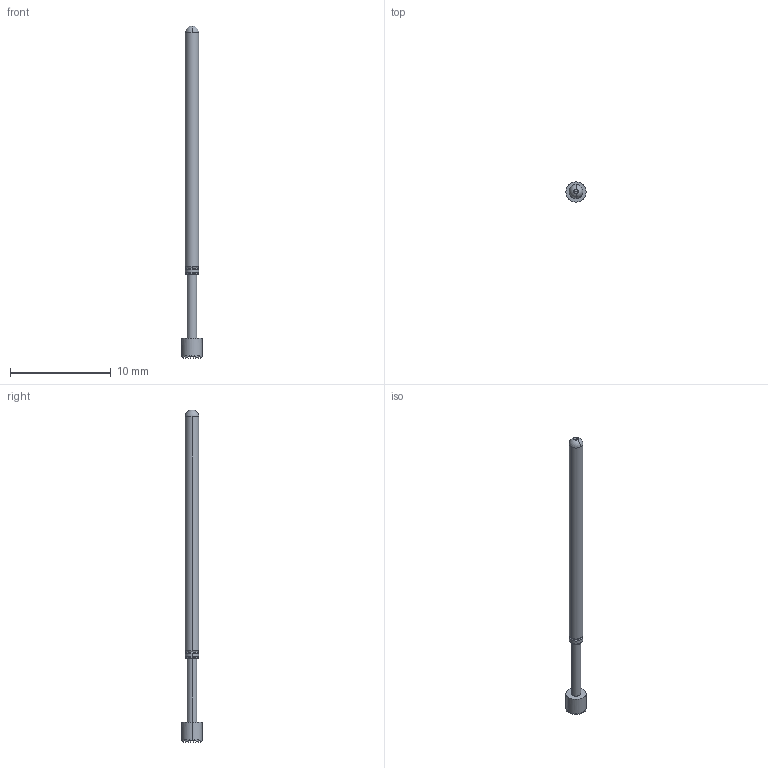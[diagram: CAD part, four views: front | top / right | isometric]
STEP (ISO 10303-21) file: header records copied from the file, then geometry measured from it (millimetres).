
FILE_DESCRIPTION (( 'STEP AP214' ), '1' );
FILE_NAME ('PA4HS-080.STEP', '2022-07-07T10:22:01', ( '' ), ( '' ), 'SwSTEP 2.0', 'SolidWorks 2022', '' );
FILE_SCHEMA (( 'AUTOMOTIVE_DESIGN' ));
Length unit declared in the file: millimetre
Products named in the file (1): PA4HS-080
Bounding box: 2 x 2 x 32.97 mm (x, y, z)
Volume: 45.9 mm3; surface area: 145 mm2
Topology: 1 solids, 1 shells, 247 faces, 577 edges, 362 vertices
Faces by surface type: plane 227, cylinder 10, bspline 4, cone 4, sphere 2
Entity records: 6930 total; most frequent: CARTESIAN_POINT 1462, ORIENTED_EDGE 1146, DIRECTION 1049, EDGE_CURVE 573, LINE 439, VECTOR 439, VERTEX_POINT 362, AXIS2_PLACEMENT_3D 305
